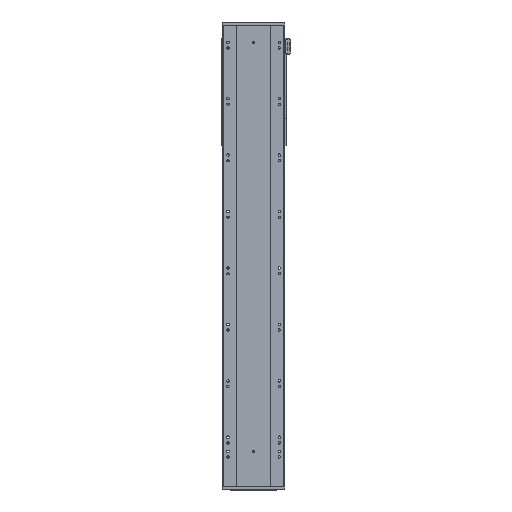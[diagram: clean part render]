
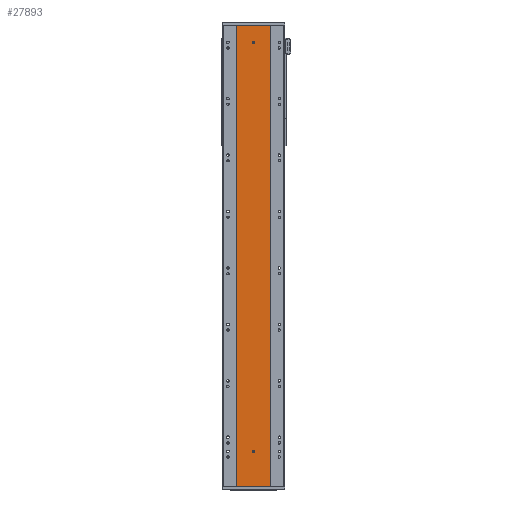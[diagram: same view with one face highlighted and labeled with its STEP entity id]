
A CAD part, front view. The second image highlights one B-rep face of the part: STEP entity #27893.
In plain terms, the highlighted planar face has unit normal (0, -1, 0).
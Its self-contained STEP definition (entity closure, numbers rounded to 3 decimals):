
#134 = ORIENTED_EDGE ( 'NONE', *, *, #17235, .T. ) ;
#904 = ORIENTED_EDGE ( 'NONE', *, *, #21214, .T. ) ;
#1047 = AXIS2_PLACEMENT_3D ( 'NONE', #57760, #43587, #63331 ) ;
#2964 = EDGE_CURVE ( 'NONE', #12624, #48131, #42808, .T. ) ;
#4415 = CIRCLE ( 'NONE', #47707, 4. ) ;
#4573 = CARTESIAN_POINT ( 'NONE',  ( -60., 0., 1635. ) ) ;
#7287 = EDGE_LOOP ( 'NONE', ( #134, #43843, #48136, #904 ) ) ;
#7520 = CARTESIAN_POINT ( 'NONE',  ( -60., 0., 0. ) ) ;
#7868 = CARTESIAN_POINT ( 'NONE',  ( 60., 0., 1635. ) ) ;
#8994 = LINE ( 'NONE', #43739, #22851 ) ;
#10265 = VERTEX_POINT ( 'NONE', #19314 ) ;
#10796 = EDGE_CURVE ( 'NONE', #48131, #12624, #38312, .T. ) ;
#11663 = CARTESIAN_POINT ( 'NONE',  ( -60., 0., 0. ) ) ;
#12160 = DIRECTION ( 'NONE',  ( 0., 0., -1. ) ) ;
#12402 = CIRCLE ( 'NONE', #1047, 4. ) ;
#12624 = VERTEX_POINT ( 'NONE', #56682 ) ;
#13285 = LINE ( 'NONE', #7868, #23300 ) ;
#16265 = DIRECTION ( 'NONE',  ( 0., -1., 0. ) ) ;
#17235 = EDGE_CURVE ( 'NONE', #33884, #46494, #50068, .T. ) ;
#18093 = AXIS2_PLACEMENT_3D ( 'NONE', #4573, #59530, #49422 ) ;
#18364 = VERTEX_POINT ( 'NONE', #45057 ) ;
#19314 = CARTESIAN_POINT ( 'NONE',  ( 60., 0., 1635. ) ) ;
#19630 = PLANE ( 'NONE',  #18093 ) ;
#21214 = EDGE_CURVE ( 'NONE', #18364, #33884, #49709, .T. ) ;
#22851 = VECTOR ( 'NONE', #63476, 1000. ) ;
#23300 = VECTOR ( 'NONE', #32110, 1000. ) ;
#27207 = EDGE_LOOP ( 'NONE', ( #31691, #50267 ) ) ;
#27436 = CARTESIAN_POINT ( 'NONE',  ( 0., 0., 1575. ) ) ;
#27893 = ADVANCED_FACE ( 'NONE', ( #33896, #28547, #35408 ), #19630, .F. ) ;
#28547 = FACE_BOUND ( 'NONE', #62386, .T. ) ;
#31691 = ORIENTED_EDGE ( 'NONE', *, *, #47908, .F. ) ;
#32110 = DIRECTION ( 'NONE',  ( 0., 0., -1. ) ) ;
#33884 = VERTEX_POINT ( 'NONE', #11663 ) ;
#33896 = FACE_BOUND ( 'NONE', #27207, .T. ) ;
#35189 = DIRECTION ( 'NONE',  ( 0., 0., -1. ) ) ;
#35408 = FACE_OUTER_BOUND ( 'NONE', #7287, .T. ) ;
#35664 = EDGE_CURVE ( 'NONE', #18364, #10265, #8994, .T. ) ;
#36172 = CARTESIAN_POINT ( 'NONE',  ( 60., 0., 0. ) ) ;
#36293 = VERTEX_POINT ( 'NONE', #56282 ) ;
#36348 = CARTESIAN_POINT ( 'NONE',  ( 0., 0., 125. ) ) ;
#36451 = CARTESIAN_POINT ( 'NONE',  ( 0., 0., 125. ) ) ;
#36677 = DIRECTION ( 'NONE',  ( 1., 0., 0. ) ) ;
#36982 = VECTOR ( 'NONE', #36677, 1000. ) ;
#37265 = DIRECTION ( 'NONE',  ( 0., -1., 0. ) ) ;
#37902 = CARTESIAN_POINT ( 'NONE',  ( 0., 0., 121. ) ) ;
#38312 = CIRCLE ( 'NONE', #48549, 4. ) ;
#38614 = EDGE_CURVE ( 'NONE', #10265, #46494, #13285, .T. ) ;
#39462 = VERTEX_POINT ( 'NONE', #41454 ) ;
#41454 = CARTESIAN_POINT ( 'NONE',  ( 0., 0., 1579. ) ) ;
#41523 = DIRECTION ( 'NONE',  ( 0., 0., -1. ) ) ;
#42808 = CIRCLE ( 'NONE', #43950, 4. ) ;
#42945 = EDGE_CURVE ( 'NONE', #39462, #36293, #12402, .T. ) ;
#43587 = DIRECTION ( 'NONE',  ( 0., -1., 0. ) ) ;
#43739 = CARTESIAN_POINT ( 'NONE',  ( -60., 0., 1635. ) ) ;
#43843 = ORIENTED_EDGE ( 'NONE', *, *, #38614, .F. ) ;
#43950 = AXIS2_PLACEMENT_3D ( 'NONE', #36348, #16265, #12160 ) ;
#45057 = CARTESIAN_POINT ( 'NONE',  ( -60., 0., 1635. ) ) ;
#46494 = VERTEX_POINT ( 'NONE', #36172 ) ;
#47707 = AXIS2_PLACEMENT_3D ( 'NONE', #27436, #37265, #56797 ) ;
#47908 = EDGE_CURVE ( 'NONE', #36293, #39462, #4415, .T. ) ;
#48131 = VERTEX_POINT ( 'NONE', #37902 ) ;
#48136 = ORIENTED_EDGE ( 'NONE', *, *, #35664, .F. ) ;
#48549 = AXIS2_PLACEMENT_3D ( 'NONE', #36451, #59236, #35189 ) ;
#49422 = DIRECTION ( 'NONE',  ( 0., 0., 1. ) ) ;
#49709 = LINE ( 'NONE', #60675, #63510 ) ;
#50068 = LINE ( 'NONE', #7520, #36982 ) ;
#50267 = ORIENTED_EDGE ( 'NONE', *, *, #42945, .F. ) ;
#54995 = ORIENTED_EDGE ( 'NONE', *, *, #2964, .F. ) ;
#56282 = CARTESIAN_POINT ( 'NONE',  ( 0., 0., 1571. ) ) ;
#56682 = CARTESIAN_POINT ( 'NONE',  ( 0., 0., 129. ) ) ;
#56797 = DIRECTION ( 'NONE',  ( 0., 0., -1. ) ) ;
#57760 = CARTESIAN_POINT ( 'NONE',  ( 0., 0., 1575. ) ) ;
#58591 = ORIENTED_EDGE ( 'NONE', *, *, #10796, .F. ) ;
#59236 = DIRECTION ( 'NONE',  ( 0., -1., 0. ) ) ;
#59530 = DIRECTION ( 'NONE',  ( 0., 1., 0. ) ) ;
#60675 = CARTESIAN_POINT ( 'NONE',  ( -60., 0., 1635. ) ) ;
#62386 = EDGE_LOOP ( 'NONE', ( #58591, #54995 ) ) ;
#63331 = DIRECTION ( 'NONE',  ( 0., 0., -1. ) ) ;
#63476 = DIRECTION ( 'NONE',  ( 1., 0., 0. ) ) ;
#63510 = VECTOR ( 'NONE', #41523, 1000. ) ;
